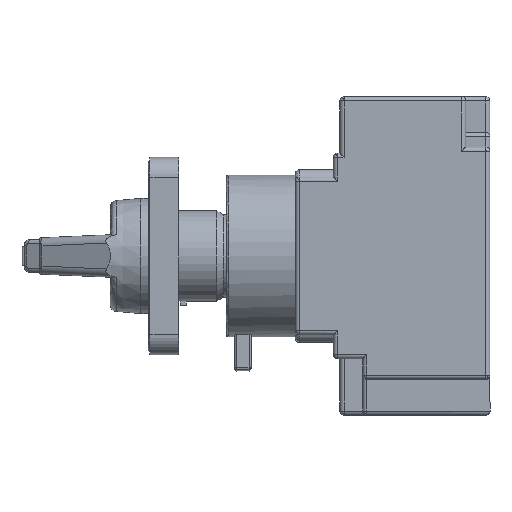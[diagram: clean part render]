
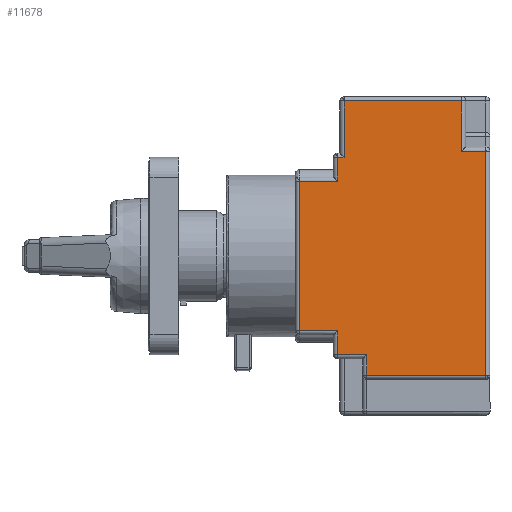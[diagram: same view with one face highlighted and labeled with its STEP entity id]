
A CAD part, left-side view. The second image highlights one B-rep face of the part: STEP entity #11678.
In plain terms, the highlighted planar face has unit normal (-1, 0, 0).
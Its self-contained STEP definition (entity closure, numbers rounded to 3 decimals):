
#448 = ORIENTED_EDGE ( 'NONE', *, *, #10014, .T. ) ;
#506 = VERTEX_POINT ( 'NONE', #1152 ) ;
#1071 = VECTOR ( 'NONE', #5083, 1000. ) ;
#1143 = DIRECTION ( 'NONE',  ( 0., -1., 0. ) ) ;
#1151 = ORIENTED_EDGE ( 'NONE', *, *, #4500, .T. ) ;
#1152 = CARTESIAN_POINT ( 'NONE',  ( -30., 35.5, 37.7 ) ) ;
#1326 = VERTEX_POINT ( 'NONE', #8967 ) ;
#1393 = VECTOR ( 'NONE', #7090, 1000. ) ;
#1499 = LINE ( 'NONE', #17168, #1071 ) ;
#1579 = ORIENTED_EDGE ( 'NONE', *, *, #11839, .T. ) ;
#1695 = CARTESIAN_POINT ( 'NONE',  ( -30., 6.9, 37.7 ) ) ;
#1721 = VECTOR ( 'NONE', #3056, 1000. ) ;
#1768 = EDGE_CURVE ( 'NONE', #4751, #3673, #8905, .T. ) ;
#1811 = DIRECTION ( 'NONE',  ( 0., 0., -1. ) ) ;
#2011 = ORIENTED_EDGE ( 'NONE', *, *, #5880, .T. ) ;
#2162 = DIRECTION ( 'NONE',  ( 0., -1., 0. ) ) ;
#2173 = CARTESIAN_POINT ( 'NONE',  ( -30., 38.1, 24. ) ) ;
#2286 = CARTESIAN_POINT ( 'NONE',  ( -30., 36.5, -38.7 ) ) ;
#2334 = CARTESIAN_POINT ( 'NONE',  ( -30., 36.5, -29. ) ) ;
#2384 = EDGE_CURVE ( 'NONE', #15650, #9753, #12862, .T. ) ;
#2485 = CARTESIAN_POINT ( 'NONE',  ( -30., 37.1, -38.7 ) ) ;
#2944 = CARTESIAN_POINT ( 'NONE',  ( -30., 35.5, 24. ) ) ;
#2949 = VECTOR ( 'NONE', #12567, 1000. ) ;
#3025 = VECTOR ( 'NONE', #4851, 1000. ) ;
#3043 = LINE ( 'NONE', #8406, #9802 ) ;
#3056 = DIRECTION ( 'NONE',  ( 0., 0., -1. ) ) ;
#3124 = CARTESIAN_POINT ( 'NONE',  ( -30., 35.5, -38.7 ) ) ;
#3155 = CARTESIAN_POINT ( 'NONE',  ( -30., 46.4, -38.7 ) ) ;
#3249 = LINE ( 'NONE', #2334, #17162 ) ;
#3673 = VERTEX_POINT ( 'NONE', #15334 ) ;
#4016 = VERTEX_POINT ( 'NONE', #13450 ) ;
#4058 = FACE_OUTER_BOUND ( 'NONE', #10012, .T. ) ;
#4428 = VERTEX_POINT ( 'NONE', #2944 ) ;
#4500 = EDGE_CURVE ( 'NONE', #12002, #1326, #12153, .T. ) ;
#4751 = VERTEX_POINT ( 'NONE', #5189 ) ;
#4822 = LINE ( 'NONE', #2173, #5302 ) ;
#4851 = DIRECTION ( 'NONE',  ( 0., -1., 0. ) ) ;
#5083 = DIRECTION ( 'NONE',  ( 0., 1., 0. ) ) ;
#5189 = CARTESIAN_POINT ( 'NONE',  ( -30., 37.1, -18.2 ) ) ;
#5302 = VECTOR ( 'NONE', #10253, 1000. ) ;
#5695 = VECTOR ( 'NONE', #6187, 1000. ) ;
#5880 = EDGE_CURVE ( 'NONE', #9753, #9244, #7383, .T. ) ;
#6089 = LINE ( 'NONE', #3124, #2949 ) ;
#6149 = LINE ( 'NONE', #12478, #1721 ) ;
#6187 = DIRECTION ( 'NONE',  ( 0., 0., -1. ) ) ;
#6231 = CARTESIAN_POINT ( 'NONE',  ( -30., 36.5, -24. ) ) ;
#6247 = LINE ( 'NONE', #3155, #12986 ) ;
#6357 = DIRECTION ( 'NONE',  ( 0., 0., 1. ) ) ;
#6422 = VECTOR ( 'NONE', #1143, 1000. ) ;
#6617 = VECTOR ( 'NONE', #9445, 1000. ) ;
#7021 = ORIENTED_EDGE ( 'NONE', *, *, #16130, .T. ) ;
#7032 = DIRECTION ( 'NONE',  ( 0., 0., 1. ) ) ;
#7090 = DIRECTION ( 'NONE',  ( 0., 1., 0. ) ) ;
#7164 = CARTESIAN_POINT ( 'NONE',  ( -30., 30., -38.7 ) ) ;
#7293 = ORIENTED_EDGE ( 'NONE', *, *, #13556, .F. ) ;
#7383 = LINE ( 'NONE', #8077, #6617 ) ;
#7591 = ORIENTED_EDGE ( 'NONE', *, *, #15304, .T. ) ;
#8077 = CARTESIAN_POINT ( 'NONE',  ( -30., 36.5, 18.2 ) ) ;
#8146 = LINE ( 'NONE', #7164, #11682 ) ;
#8161 = CARTESIAN_POINT ( 'NONE',  ( -30., 1., -29. ) ) ;
#8319 = VERTEX_POINT ( 'NONE', #8161 ) ;
#8396 = CARTESIAN_POINT ( 'NONE',  ( -30., 36.5, 25.5 ) ) ;
#8406 = CARTESIAN_POINT ( 'NONE',  ( -30., 6.9, -38.7 ) ) ;
#8435 = CARTESIAN_POINT ( 'NONE',  ( -30., 37.1, 18.2 ) ) ;
#8514 = ORIENTED_EDGE ( 'NONE', *, *, #16267, .F. ) ;
#8520 = EDGE_CURVE ( 'NONE', #9244, #8845, #6247, .T. ) ;
#8548 = VERTEX_POINT ( 'NONE', #14354 ) ;
#8845 = VERTEX_POINT ( 'NONE', #9548 ) ;
#8905 = LINE ( 'NONE', #2485, #16475 ) ;
#8952 = ORIENTED_EDGE ( 'NONE', *, *, #8520, .T. ) ;
#8967 = CARTESIAN_POINT ( 'NONE',  ( -30., 6.9, 25.5 ) ) ;
#8992 = CARTESIAN_POINT ( 'NONE',  ( -30., 37.1, -38.7 ) ) ;
#9033 = PLANE ( 'NONE',  #16079 ) ;
#9244 = VERTEX_POINT ( 'NONE', #13656 ) ;
#9445 = DIRECTION ( 'NONE',  ( 0., 1., 0. ) ) ;
#9548 = CARTESIAN_POINT ( 'NONE',  ( -30., 46.4, -18.2 ) ) ;
#9670 = ORIENTED_EDGE ( 'NONE', *, *, #16484, .T. ) ;
#9753 = VERTEX_POINT ( 'NONE', #8435 ) ;
#9802 = VECTOR ( 'NONE', #7032, 1000. ) ;
#9880 = DIRECTION ( 'NONE',  ( 0., 0., -1. ) ) ;
#10012 = EDGE_LOOP ( 'NONE', ( #12010, #15167, #1579, #9670, #448, #7293, #1151, #12228, #7591, #7021, #8514, #13235, #2011, #8952 ) ) ;
#10014 = EDGE_CURVE ( 'NONE', #8548, #8319, #3249, .T. ) ;
#10195 = LINE ( 'NONE', #6231, #3025 ) ;
#10253 = DIRECTION ( 'NONE',  ( 0., -1., 0. ) ) ;
#11022 = VERTEX_POINT ( 'NONE', #1695 ) ;
#11678 = ADVANCED_FACE ( 'NONE', ( #4058 ), #9033, .T. ) ;
#11682 = VECTOR ( 'NONE', #9880, 1000. ) ;
#11839 = EDGE_CURVE ( 'NONE', #3673, #4016, #10195, .T. ) ;
#11910 = DIRECTION ( 'NONE',  ( 0., 0., -1. ) ) ;
#12002 = VERTEX_POINT ( 'NONE', #14185 ) ;
#12010 = ORIENTED_EDGE ( 'NONE', *, *, #16652, .T. ) ;
#12153 = LINE ( 'NONE', #8396, #1393 ) ;
#12228 = ORIENTED_EDGE ( 'NONE', *, *, #16952, .T. ) ;
#12478 = CARTESIAN_POINT ( 'NONE',  ( -30., 1., 38.7 ) ) ;
#12567 = DIRECTION ( 'NONE',  ( 0., 0., -1. ) ) ;
#12692 = CARTESIAN_POINT ( 'NONE',  ( -30., 37.1, 24. ) ) ;
#12862 = LINE ( 'NONE', #8992, #5695 ) ;
#12986 = VECTOR ( 'NONE', #1811, 1000. ) ;
#13235 = ORIENTED_EDGE ( 'NONE', *, *, #2384, .T. ) ;
#13450 = CARTESIAN_POINT ( 'NONE',  ( -30., 30., -24. ) ) ;
#13556 = EDGE_CURVE ( 'NONE', #12002, #8319, #6149, .T. ) ;
#13656 = CARTESIAN_POINT ( 'NONE',  ( -30., 46.4, 18.2 ) ) ;
#14185 = CARTESIAN_POINT ( 'NONE',  ( -30., 1., 25.5 ) ) ;
#14354 = CARTESIAN_POINT ( 'NONE',  ( -30., 30., -29. ) ) ;
#14444 = DIRECTION ( 'NONE',  ( -1., 0., 0. ) ) ;
#15167 = ORIENTED_EDGE ( 'NONE', *, *, #1768, .T. ) ;
#15304 = EDGE_CURVE ( 'NONE', #11022, #506, #1499, .T. ) ;
#15334 = CARTESIAN_POINT ( 'NONE',  ( -30., 37.1, -24. ) ) ;
#15650 = VERTEX_POINT ( 'NONE', #12692 ) ;
#16079 = AXIS2_PLACEMENT_3D ( 'NONE', #2286, #14444, #6357 ) ;
#16130 = EDGE_CURVE ( 'NONE', #506, #4428, #6089, .T. ) ;
#16267 = EDGE_CURVE ( 'NONE', #15650, #4428, #4822, .T. ) ;
#16475 = VECTOR ( 'NONE', #11910, 1000. ) ;
#16484 = EDGE_CURVE ( 'NONE', #4016, #8548, #8146, .T. ) ;
#16652 = EDGE_CURVE ( 'NONE', #8845, #4751, #16743, .T. ) ;
#16743 = LINE ( 'NONE', #17279, #6422 ) ;
#16952 = EDGE_CURVE ( 'NONE', #1326, #11022, #3043, .T. ) ;
#17162 = VECTOR ( 'NONE', #2162, 1000. ) ;
#17168 = CARTESIAN_POINT ( 'NONE',  ( -30., 36.5, 37.7 ) ) ;
#17279 = CARTESIAN_POINT ( 'NONE',  ( -30., 36.5, -18.2 ) ) ;
